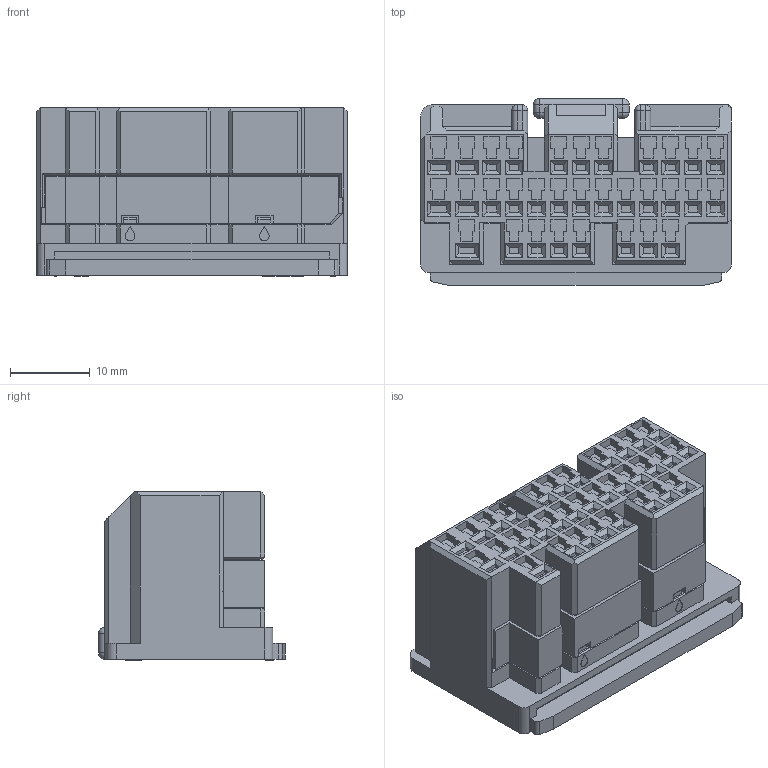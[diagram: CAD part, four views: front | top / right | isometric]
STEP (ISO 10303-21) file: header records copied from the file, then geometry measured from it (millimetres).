
FILE_DESCRIPTION((''),'2;1');
FILE_NAME('C-179681-6','2008-07-09T',('workeradm'),('Tyco Electronics Corporation'),'PRO/ENGINEER BY PARAMETRIC TECHNOLOGY CORPORATION, 2005450','PRO/ENGINEER BY PARAMETRIC TECHNOLOGY CORPORATION, 2005450','');
FILE_SCHEMA(('CONFIG_CONTROL_DESIGN', 'GEOMETRIC_VALIDATION_PROPERTIES_MIM'));
Length unit declared in the file: millimetre
Products named in the file (1): C-179681-6
Bounding box: 38.9 x 23.4 x 21.15 mm (x, y, z)
Volume: 12331.3 mm3; surface area: 6718.2 mm2
Topology: 1 solids, 1 shells, 1562 faces, 4139 edges, 2680 vertices
Faces by surface type: plane 1513, cylinder 37, sphere 10, bspline 2
Entity records: 47362 total; most frequent: CARTESIAN_POINT 8546, ORIENTED_EDGE 8270, DIRECTION 7309, EDGE_CURVE 4135, VECTOR 4057, LINE 4057, VERTEX_POINT 2680, EDGE_LOOP 1673
